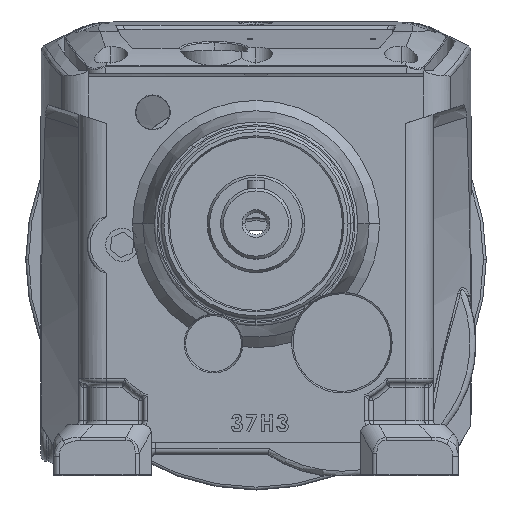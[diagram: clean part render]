
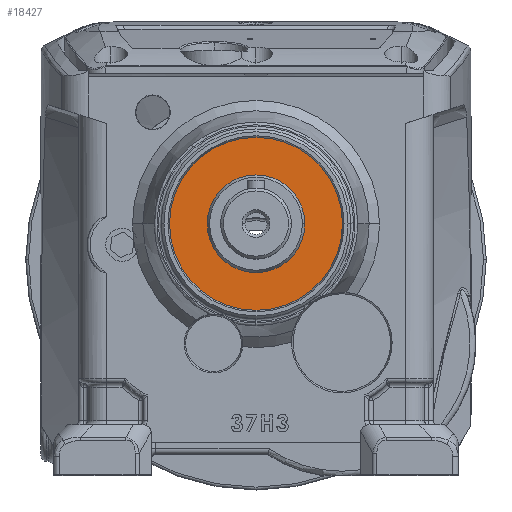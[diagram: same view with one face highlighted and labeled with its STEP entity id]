
A CAD part, top view. The second image highlights one B-rep face of the part: STEP entity #18427.
In plain terms, the highlighted planar face has unit normal (0, 0, 1).
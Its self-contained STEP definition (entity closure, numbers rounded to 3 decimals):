
#15699 = CARTESIAN_POINT ( 'NONE',  ( 0., 87.5, 30. ) ) ;
#15700 = DIRECTION ( 'NONE',  ( 0., 0., 1. ) ) ;
#15701 = DIRECTION ( 'NONE',  ( 1., 0., 0. ) ) ;
#15745 = CARTESIAN_POINT ( 'NONE',  ( 0., 87.5, 30. ) ) ;
#15746 = DIRECTION ( 'NONE',  ( 0., 0., 1. ) ) ;
#15747 = DIRECTION ( 'NONE',  ( 1., 0., 0. ) ) ;
#15748 = CARTESIAN_POINT ( 'NONE',  ( 0., 87.5, 30. ) ) ;
#15749 = DIRECTION ( 'NONE',  ( 0., 0., 1. ) ) ;
#15750 = DIRECTION ( 'NONE',  ( 1., 0., 0. ) ) ;
#15751 = CARTESIAN_POINT ( 'NONE',  ( 0., 87.5, 30. ) ) ;
#15752 = DIRECTION ( 'NONE',  ( 0., 0., 1. ) ) ;
#15753 = DIRECTION ( 'NONE',  ( 1., 0., 0. ) ) ;
#18427 = ADVANCED_FACE ( 'NONE', ( #30354, #30355 ), #18922, .F. ) ;
#18922 = PLANE ( 'NONE',  #27720 ) ;
#18923 = CARTESIAN_POINT ( 'NONE',  ( 0., 118.5, 30. ) ) ;
#18924 = DIRECTION ( 'NONE',  ( 0., 0., -1. ) ) ;
#18925 = DIRECTION ( 'NONE',  ( -1., 0., 0. ) ) ;
#23701 = EDGE_CURVE ( 'NONE', #27037, #27034, #29187, .T. ) ;
#23712 = EDGE_CURVE ( 'NONE', #27034, #27037, #29195, .T. ) ;
#23713 = EDGE_CURVE ( 'NONE', #27012, #27022, #29184, .T. ) ;
#23714 = EDGE_CURVE ( 'NONE', #27022, #27012, #29205, .T. ) ;
#27012 = VERTEX_POINT ( 'NONE', #51354 ) ;
#27022 = VERTEX_POINT ( 'NONE', #51359 ) ;
#27034 = VERTEX_POINT ( 'NONE', #51363 ) ;
#27037 = VERTEX_POINT ( 'NONE', #51364 ) ;
#27040 = EDGE_LOOP ( 'NONE', ( #44979, #44960 ) ) ;
#27044 = EDGE_LOOP ( 'NONE', ( #44995, #44967 ) ) ;
#27720 = AXIS2_PLACEMENT_3D ( 'NONE', #18923, #18924, #18925 ) ;
#29184 = CIRCLE ( 'NONE', #29204, 17.5 ) ;
#29187 = CIRCLE ( 'NONE', #29189, 31. ) ;
#29189 = AXIS2_PLACEMENT_3D ( 'NONE', #15699, #15700, #15701 ) ;
#29195 = CIRCLE ( 'NONE', #29203, 31. ) ;
#29203 = AXIS2_PLACEMENT_3D ( 'NONE', #15745, #15746, #15747 ) ;
#29204 = AXIS2_PLACEMENT_3D ( 'NONE', #15748, #15749, #15750 ) ;
#29205 = CIRCLE ( 'NONE', #29206, 17.5 ) ;
#29206 = AXIS2_PLACEMENT_3D ( 'NONE', #15751, #15752, #15753 ) ;
#30354 = FACE_BOUND ( 'NONE', #27044, .T. ) ;
#30355 = FACE_OUTER_BOUND ( 'NONE', #27040, .T. ) ;
#44960 = ORIENTED_EDGE ( 'NONE', *, *, #23712, .T. ) ;
#44967 = ORIENTED_EDGE ( 'NONE', *, *, #23714, .F. ) ;
#44979 = ORIENTED_EDGE ( 'NONE', *, *, #23701, .T. ) ;
#44995 = ORIENTED_EDGE ( 'NONE', *, *, #23713, .F. ) ;
#51354 = CARTESIAN_POINT ( 'NONE',  ( 17.5, 87.5, 30. ) ) ;
#51359 = CARTESIAN_POINT ( 'NONE',  ( -17.5, 87.5, 30. ) ) ;
#51363 = CARTESIAN_POINT ( 'NONE',  ( -31., 87.5, 30. ) ) ;
#51364 = CARTESIAN_POINT ( 'NONE',  ( 31., 87.5, 30. ) ) ;
